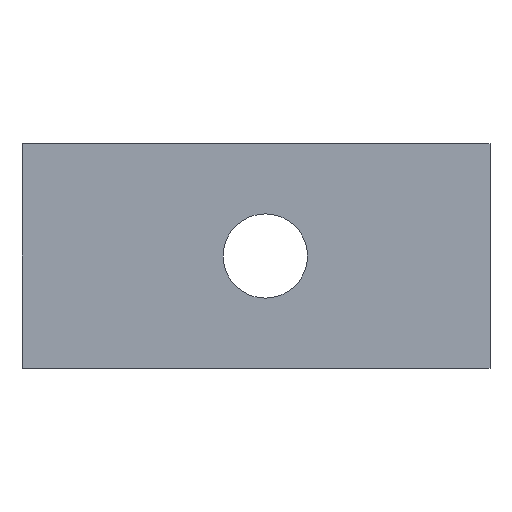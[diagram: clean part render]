
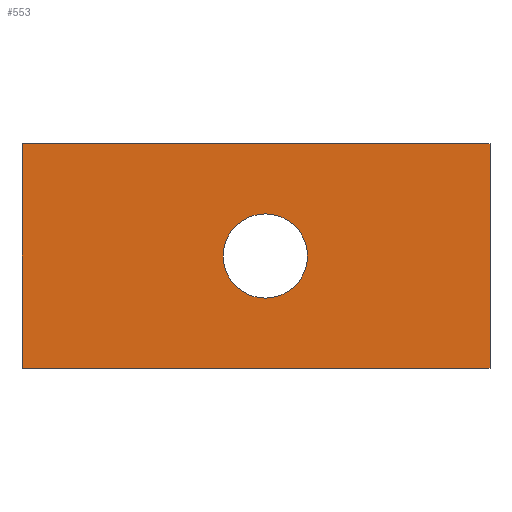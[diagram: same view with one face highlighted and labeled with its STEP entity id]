
A CAD part, front view. The second image highlights one B-rep face of the part: STEP entity #553.
In plain terms, the highlighted planar face has unit normal (0, -1, 0).
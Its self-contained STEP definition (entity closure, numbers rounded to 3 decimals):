
#24 = VERTEX_POINT('',#25);
#25 = CARTESIAN_POINT('',(12.5,-12.5,0.));
#32 = PLANE('',#33);
#33 = AXIS2_PLACEMENT_3D('',#34,#35,#36);
#34 = CARTESIAN_POINT('',(8.5,12.5,0.));
#35 = DIRECTION('',(0.,0.,1.));
#36 = DIRECTION('',(1.,0.,0.));
#44 = PLANE('',#45);
#45 = AXIS2_PLACEMENT_3D('',#46,#47,#48);
#46 = CARTESIAN_POINT('',(12.5,12.5,0.));
#47 = DIRECTION('',(1.,0.,0.));
#48 = DIRECTION('',(0.,0.,1.));
#141 = VERTEX_POINT('',#142);
#142 = CARTESIAN_POINT('',(-12.5,-12.5,0.));
#156 = PLANE('',#157);
#157 = AXIS2_PLACEMENT_3D('',#158,#159,#160);
#158 = CARTESIAN_POINT('',(-12.5,-8.5,0.));
#159 = DIRECTION('',(1.,0.,0.));
#160 = DIRECTION('',(0.,0.,1.));
#168 = EDGE_CURVE('',#24,#141,#169,.T.);
#169 = SURFACE_CURVE('',#170,(#174,#181),.PCURVE_S1.);
#170 = LINE('',#171,#172);
#171 = CARTESIAN_POINT('',(12.5,-12.5,0.));
#172 = VECTOR('',#173,1.);
#173 = DIRECTION('',(-1.,0.,0.));
#174 = PCURVE('',#32,#175);
#175 = DEFINITIONAL_REPRESENTATION('',(#176),#180);
#176 = LINE('',#177,#178);
#177 = CARTESIAN_POINT('',(4.,-25.));
#178 = VECTOR('',#179,1.);
#179 = DIRECTION('',(-1.,0.));
#180 = ( GEOMETRIC_REPRESENTATION_CONTEXT(2) 
PARAMETRIC_REPRESENTATION_CONTEXT() REPRESENTATION_CONTEXT('2D SPACE',''
  ) );
#181 = PCURVE('',#182,#187);
#182 = PLANE('',#183);
#183 = AXIS2_PLACEMENT_3D('',#184,#185,#186);
#184 = CARTESIAN_POINT('',(8.5,-12.5,0.));
#185 = DIRECTION('',(0.,-1.,0.));
#186 = DIRECTION('',(1.,0.,0.));
#187 = DEFINITIONAL_REPRESENTATION('',(#188),#192);
#188 = LINE('',#189,#190);
#189 = CARTESIAN_POINT('',(4.,0.));
#190 = VECTOR('',#191,1.);
#191 = DIRECTION('',(-1.,0.));
#192 = ( GEOMETRIC_REPRESENTATION_CONTEXT(2) 
PARAMETRIC_REPRESENTATION_CONTEXT() REPRESENTATION_CONTEXT('2D SPACE',''
  ) );
#222 = VERTEX_POINT('',#223);
#223 = CARTESIAN_POINT('',(12.5,-12.5,12.));
#237 = PLANE('',#238);
#238 = AXIS2_PLACEMENT_3D('',#239,#240,#241);
#239 = CARTESIAN_POINT('',(8.5,12.5,12.));
#240 = DIRECTION('',(0.,0.,1.));
#241 = DIRECTION('',(1.,0.,0.));
#249 = EDGE_CURVE('',#24,#222,#250,.T.);
#250 = SURFACE_CURVE('',#251,(#255,#262),.PCURVE_S1.);
#251 = LINE('',#252,#253);
#252 = CARTESIAN_POINT('',(12.5,-12.5,0.));
#253 = VECTOR('',#254,1.);
#254 = DIRECTION('',(0.,0.,1.));
#255 = PCURVE('',#44,#256);
#256 = DEFINITIONAL_REPRESENTATION('',(#257),#261);
#257 = LINE('',#258,#259);
#258 = CARTESIAN_POINT('',(0.,25.));
#259 = VECTOR('',#260,1.);
#260 = DIRECTION('',(1.,0.));
#261 = ( GEOMETRIC_REPRESENTATION_CONTEXT(2) 
PARAMETRIC_REPRESENTATION_CONTEXT() REPRESENTATION_CONTEXT('2D SPACE',''
  ) );
#262 = PCURVE('',#182,#263);
#263 = DEFINITIONAL_REPRESENTATION('',(#264),#268);
#264 = LINE('',#265,#266);
#265 = CARTESIAN_POINT('',(4.,0.));
#266 = VECTOR('',#267,1.);
#267 = DIRECTION('',(0.,1.));
#268 = ( GEOMETRIC_REPRESENTATION_CONTEXT(2) 
PARAMETRIC_REPRESENTATION_CONTEXT() REPRESENTATION_CONTEXT('2D SPACE',''
  ) );
#493 = CYLINDRICAL_SURFACE('',#494,2.25);
#494 = AXIS2_PLACEMENT_3D('',#495,#496,#497);
#495 = CARTESIAN_POINT('',(0.5,-7.5,6.));
#496 = DIRECTION('',(0.,-1.,0.));
#497 = DIRECTION('',(1.,0.,0.));
#511 = VERTEX_POINT('',#512);
#512 = CARTESIAN_POINT('',(-12.5,-12.5,12.));
#533 = EDGE_CURVE('',#141,#511,#534,.T.);
#534 = SURFACE_CURVE('',#535,(#539,#546),.PCURVE_S1.);
#535 = LINE('',#536,#537);
#536 = CARTESIAN_POINT('',(-12.5,-12.5,0.));
#537 = VECTOR('',#538,1.);
#538 = DIRECTION('',(0.,0.,1.));
#539 = PCURVE('',#156,#540);
#540 = DEFINITIONAL_REPRESENTATION('',(#541),#545);
#541 = LINE('',#542,#543);
#542 = CARTESIAN_POINT('',(0.,4.));
#543 = VECTOR('',#544,1.);
#544 = DIRECTION('',(1.,0.));
#545 = ( GEOMETRIC_REPRESENTATION_CONTEXT(2) 
PARAMETRIC_REPRESENTATION_CONTEXT() REPRESENTATION_CONTEXT('2D SPACE',''
  ) );
#546 = PCURVE('',#182,#547);
#547 = DEFINITIONAL_REPRESENTATION('',(#548),#552);
#548 = LINE('',#549,#550);
#549 = CARTESIAN_POINT('',(-21.,0.));
#550 = VECTOR('',#551,1.);
#551 = DIRECTION('',(0.,1.));
#552 = ( GEOMETRIC_REPRESENTATION_CONTEXT(2) 
PARAMETRIC_REPRESENTATION_CONTEXT() REPRESENTATION_CONTEXT('2D SPACE',''
  ) );
#553 = ADVANCED_FACE('',(#554,#580),#182,.T.);
#554 = FACE_BOUND('',#555,.T.);
#555 = EDGE_LOOP('',(#556,#577,#578,#579));
#556 = ORIENTED_EDGE('',*,*,#557,.F.);
#557 = EDGE_CURVE('',#511,#222,#558,.T.);
#558 = SURFACE_CURVE('',#559,(#563,#570),.PCURVE_S1.);
#559 = LINE('',#560,#561);
#560 = CARTESIAN_POINT('',(-12.5,-12.5,12.));
#561 = VECTOR('',#562,1.);
#562 = DIRECTION('',(1.,0.,0.));
#563 = PCURVE('',#182,#564);
#564 = DEFINITIONAL_REPRESENTATION('',(#565),#569);
#565 = LINE('',#566,#567);
#566 = CARTESIAN_POINT('',(-21.,12.));
#567 = VECTOR('',#568,1.);
#568 = DIRECTION('',(1.,0.));
#569 = ( GEOMETRIC_REPRESENTATION_CONTEXT(2) 
PARAMETRIC_REPRESENTATION_CONTEXT() REPRESENTATION_CONTEXT('2D SPACE',''
  ) );
#570 = PCURVE('',#237,#571);
#571 = DEFINITIONAL_REPRESENTATION('',(#572),#576);
#572 = LINE('',#573,#574);
#573 = CARTESIAN_POINT('',(-21.,-25.));
#574 = VECTOR('',#575,1.);
#575 = DIRECTION('',(1.,0.));
#576 = ( GEOMETRIC_REPRESENTATION_CONTEXT(2) 
PARAMETRIC_REPRESENTATION_CONTEXT() REPRESENTATION_CONTEXT('2D SPACE',''
  ) );
#577 = ORIENTED_EDGE('',*,*,#533,.F.);
#578 = ORIENTED_EDGE('',*,*,#168,.F.);
#579 = ORIENTED_EDGE('',*,*,#249,.T.);
#580 = FACE_BOUND('',#581,.T.);
#581 = EDGE_LOOP('',(#582));
#582 = ORIENTED_EDGE('',*,*,#583,.F.);
#583 = EDGE_CURVE('',#584,#584,#586,.T.);
#584 = VERTEX_POINT('',#585);
#585 = CARTESIAN_POINT('',(2.75,-12.5,6.));
#586 = SURFACE_CURVE('',#587,(#592,#599),.PCURVE_S1.);
#587 = CIRCLE('',#588,2.25);
#588 = AXIS2_PLACEMENT_3D('',#589,#590,#591);
#589 = CARTESIAN_POINT('',(0.5,-12.5,6.));
#590 = DIRECTION('',(0.,-1.,0.));
#591 = DIRECTION('',(1.,0.,0.));
#592 = PCURVE('',#182,#593);
#593 = DEFINITIONAL_REPRESENTATION('',(#594),#598);
#594 = CIRCLE('',#595,2.25);
#595 = AXIS2_PLACEMENT_2D('',#596,#597);
#596 = CARTESIAN_POINT('',(-8.,6.));
#597 = DIRECTION('',(1.,0.));
#598 = ( GEOMETRIC_REPRESENTATION_CONTEXT(2) 
PARAMETRIC_REPRESENTATION_CONTEXT() REPRESENTATION_CONTEXT('2D SPACE',''
  ) );
#599 = PCURVE('',#493,#600);
#600 = DEFINITIONAL_REPRESENTATION('',(#601),#605);
#601 = LINE('',#602,#603);
#602 = CARTESIAN_POINT('',(0.,5.));
#603 = VECTOR('',#604,1.);
#604 = DIRECTION('',(1.,0.));
#605 = ( GEOMETRIC_REPRESENTATION_CONTEXT(2) 
PARAMETRIC_REPRESENTATION_CONTEXT() REPRESENTATION_CONTEXT('2D SPACE',''
  ) );
